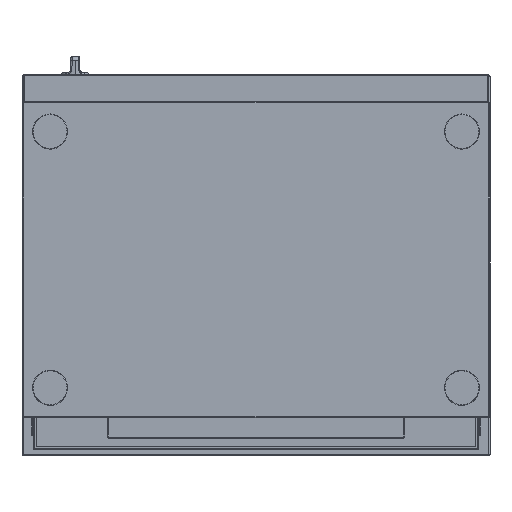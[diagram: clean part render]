
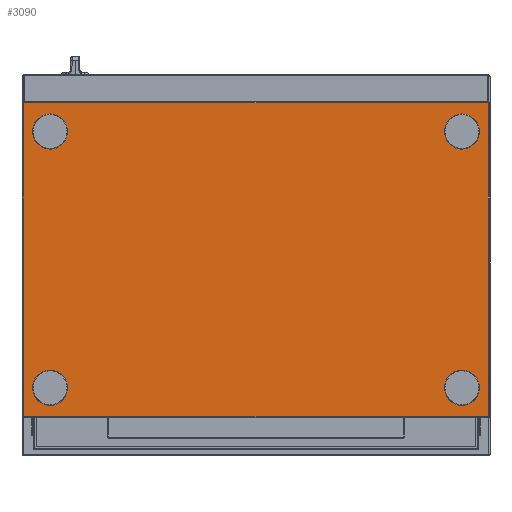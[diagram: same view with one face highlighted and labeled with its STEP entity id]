
A CAD part, front view. The second image highlights one B-rep face of the part: STEP entity #3090.
In plain terms, the highlighted planar face has unit normal (0, -1, 0).
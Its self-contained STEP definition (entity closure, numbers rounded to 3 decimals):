
#876=CARTESIAN_POINT('',(352.,-352.5,-219.));
#877=DIRECTION('',(0.,-1.,0.));
#878=DIRECTION('',(1.,0.,0.));
#879=AXIS2_PLACEMENT_3D('',#876,#877,#878);
#881=CARTESIAN_POINT('',(352.,-352.5,-219.));
#882=DIRECTION('',(0.,-1.,0.));
#883=DIRECTION('',(-1.,0.,0.));
#884=AXIS2_PLACEMENT_3D('',#881,#882,#883);
#886=CARTESIAN_POINT('',(352.,-352.5,219.));
#887=DIRECTION('',(0.,-1.,0.));
#888=DIRECTION('',(1.,0.,0.));
#889=AXIS2_PLACEMENT_3D('',#886,#887,#888);
#891=CARTESIAN_POINT('',(352.,-352.5,219.));
#892=DIRECTION('',(0.,-1.,0.));
#893=DIRECTION('',(-1.,0.,0.));
#894=AXIS2_PLACEMENT_3D('',#891,#892,#893);
#896=CARTESIAN_POINT('',(-352.,-352.5,-219.));
#897=DIRECTION('',(0.,1.,0.));
#898=DIRECTION('',(-1.,0.,0.));
#899=AXIS2_PLACEMENT_3D('',#896,#897,#898);
#901=CARTESIAN_POINT('',(-352.,-352.5,-219.));
#902=DIRECTION('',(0.,1.,0.));
#903=DIRECTION('',(1.,0.,0.));
#904=AXIS2_PLACEMENT_3D('',#901,#902,#903);
#906=CARTESIAN_POINT('',(-352.,-352.5,219.));
#907=DIRECTION('',(0.,1.,0.));
#908=DIRECTION('',(-1.,0.,0.));
#909=AXIS2_PLACEMENT_3D('',#906,#907,#908);
#911=CARTESIAN_POINT('',(-352.,-352.5,219.));
#912=DIRECTION('',(0.,1.,0.));
#913=DIRECTION('',(1.,0.,0.));
#914=AXIS2_PLACEMENT_3D('',#911,#912,#913);
#916=DIRECTION('',(0.,0.,-1.));
#917=VECTOR('',#916,536.4);
#918=CARTESIAN_POINT('',(397.2,-352.5,268.2));
#919=LINE('',#918,#917);
#920=DIRECTION('',(-1.,0.,0.));
#921=VECTOR('',#920,794.4);
#922=CARTESIAN_POINT('',(397.2,-352.5,-268.2));
#923=LINE('',#922,#921);
#924=DIRECTION('',(0.,0.,1.));
#925=VECTOR('',#924,536.4);
#926=CARTESIAN_POINT('',(-397.2,-352.5,-268.2));
#927=LINE('',#926,#925);
#928=DIRECTION('',(-1.,0.,0.));
#929=VECTOR('',#928,794.4);
#930=CARTESIAN_POINT('',(397.2,-352.5,268.2));
#931=LINE('',#930,#929);
#1455=CARTESIAN_POINT('',(382.,-352.5,-219.));
#1456=CARTESIAN_POINT('',(322.,-352.5,-219.));
#1457=VERTEX_POINT('',#1455);
#1458=VERTEX_POINT('',#1456);
#1487=CARTESIAN_POINT('',(397.2,-352.5,268.2));
#1488=CARTESIAN_POINT('',(397.2,-352.5,-268.2));
#1489=VERTEX_POINT('',#1487);
#1490=VERTEX_POINT('',#1488);
#1493=CARTESIAN_POINT('',(-397.2,-352.5,268.2));
#1494=VERTEX_POINT('',#1493);
#1497=CARTESIAN_POINT('',(-397.2,-352.5,-268.2));
#1498=VERTEX_POINT('',#1497);
#1555=CARTESIAN_POINT('',(382.,-352.5,219.));
#1556=CARTESIAN_POINT('',(322.,-352.5,219.));
#1557=VERTEX_POINT('',#1555);
#1558=VERTEX_POINT('',#1556);
#1563=CARTESIAN_POINT('',(-382.,-352.5,-219.));
#1564=VERTEX_POINT('',#1563);
#1565=CARTESIAN_POINT('',(-322.,-352.5,-219.));
#1566=VERTEX_POINT('',#1565);
#1571=CARTESIAN_POINT('',(-382.,-352.5,219.));
#1572=VERTEX_POINT('',#1571);
#1573=CARTESIAN_POINT('',(-322.,-352.5,219.));
#1574=VERTEX_POINT('',#1573);
#3053=CARTESIAN_POINT('',(-399.,-352.5,270.));
#3054=DIRECTION('',(0.,-1.,0.));
#3055=DIRECTION('',(0.,0.,-1.));
#3056=AXIS2_PLACEMENT_3D('',#3053,#3054,#3055);
#3057=PLANE('',#3056);
#3059=ORIENTED_EDGE('',*,*,#3058,.T.);
#3061=ORIENTED_EDGE('',*,*,#3060,.T.);
#3062=ORIENTED_EDGE('',*,*,#3021,.T.);
#3063=ORIENTED_EDGE('',*,*,#3044,.F.);
#3064=EDGE_LOOP('',(#3059,#3061,#3062,#3063));
#3065=FACE_OUTER_BOUND('',#3064,.F.);
#3067=ORIENTED_EDGE('',*,*,#3066,.T.);
#3069=ORIENTED_EDGE('',*,*,#3068,.T.);
#3070=EDGE_LOOP('',(#3067,#3069));
#3071=FACE_BOUND('',#3070,.F.);
#3073=ORIENTED_EDGE('',*,*,#3072,.F.);
#3075=ORIENTED_EDGE('',*,*,#3074,.F.);
#3076=EDGE_LOOP('',(#3073,#3075));
#3077=FACE_BOUND('',#3076,.F.);
#3079=ORIENTED_EDGE('',*,*,#3078,.F.);
#3081=ORIENTED_EDGE('',*,*,#3080,.F.);
#3082=EDGE_LOOP('',(#3079,#3081));
#3083=FACE_BOUND('',#3082,.F.);
#3085=ORIENTED_EDGE('',*,*,#3084,.T.);
#3087=ORIENTED_EDGE('',*,*,#3086,.T.);
#3088=EDGE_LOOP('',(#3085,#3087));
#3089=FACE_BOUND('',#3088,.F.);
#880=CIRCLE('',#879,30.);
#885=CIRCLE('',#884,30.);
#890=CIRCLE('',#889,30.);
#895=CIRCLE('',#894,30.);
#900=CIRCLE('',#899,30.);
#905=CIRCLE('',#904,30.);
#910=CIRCLE('',#909,30.);
#915=CIRCLE('',#914,30.);
#3021=EDGE_CURVE('',#1498,#1494,#927,.T.);
#3044=EDGE_CURVE('',#1489,#1494,#931,.T.);
#3058=EDGE_CURVE('',#1489,#1490,#919,.T.);
#3060=EDGE_CURVE('',#1490,#1498,#923,.T.);
#3066=EDGE_CURVE('',#1557,#1558,#890,.T.);
#3068=EDGE_CURVE('',#1558,#1557,#895,.T.);
#3072=EDGE_CURVE('',#1564,#1566,#900,.T.);
#3074=EDGE_CURVE('',#1566,#1564,#905,.T.);
#3078=EDGE_CURVE('',#1572,#1574,#910,.T.);
#3080=EDGE_CURVE('',#1574,#1572,#915,.T.);
#3084=EDGE_CURVE('',#1457,#1458,#880,.T.);
#3086=EDGE_CURVE('',#1458,#1457,#885,.T.);
#3090=ADVANCED_FACE('',(#3065,#3071,#3077,#3083,#3089),#3057,.T.);
